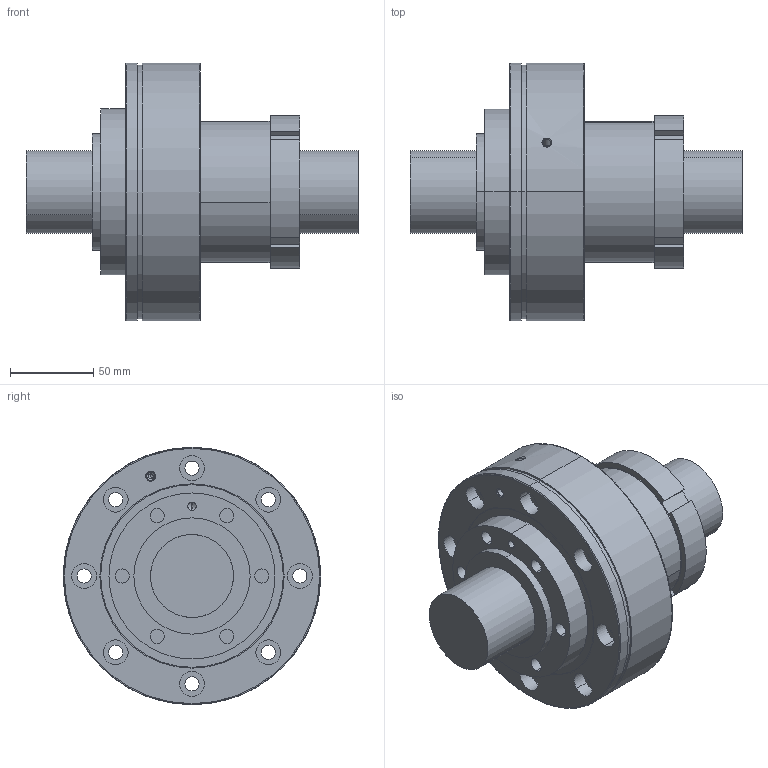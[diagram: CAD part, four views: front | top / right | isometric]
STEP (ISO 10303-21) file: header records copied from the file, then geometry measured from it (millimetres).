
FILE_DESCRIPTION (( 'STEP AP214' ), '1' );
FILE_NAME ('R50-20T3-AME.STEP', '2011-07-22T08:32:07', ( 'test' ), ( '' ), 'SwSTEP 2.0', 'SolidWorks 2010', '' );
FILE_SCHEMA (( 'AUTOMOTIVE_DESIGN' ));
Length unit declared in the file: millimetre
Products named in the file (6): 10002721~0; 10002716~0; 10002717~0; 10002724~0; R50-20T3-AME; 10002722~0
Assembly tree (5 placements, depth 2):
  R50-20T3-AME
    10002717~0
    10002724~0
    10002722~0
    10002721~0
    10002716~0
Bounding box: 200 x 155 x 155 mm (x, y, z)
Volume: 1372851.5 mm3; surface area: 280978.4 mm2
Topology: 19 solids, 19 shells, 280 faces, 689 edges, 429 vertices
Faces by surface type: bspline 150, cylinder 66, plane 62, cone 2
Entity records: 12613 total; most frequent: CARTESIAN_POINT 3704, ORIENTED_EDGE 1310, DIRECTION 1207, EDGE_CURVE 655, AXIS2_PLACEMENT_3D 496, VERTEX_POINT 429, CIRCLE 358, EDGE_LOOP 348
